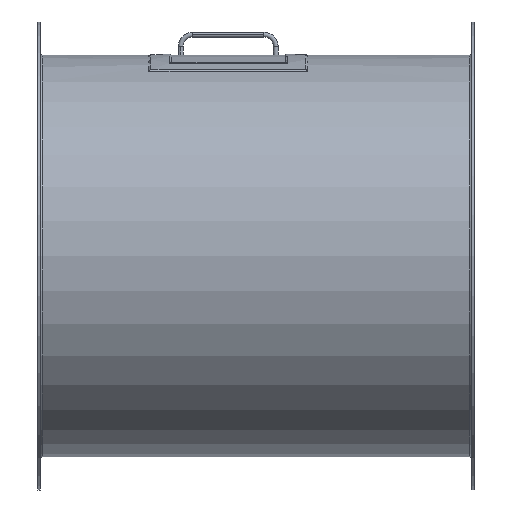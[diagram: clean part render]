
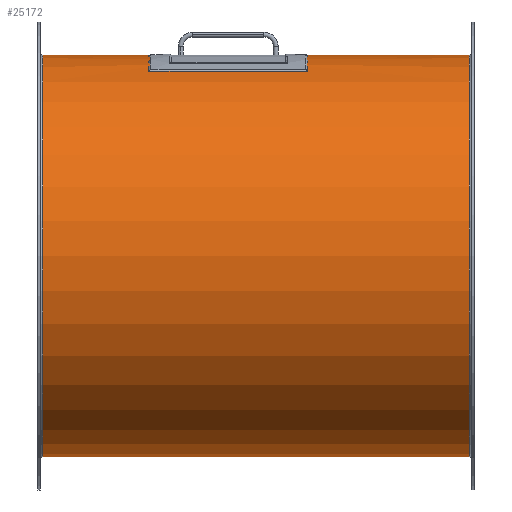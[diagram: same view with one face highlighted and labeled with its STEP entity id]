
A CAD part, top view. The second image highlights one B-rep face of the part: STEP entity #25172.
In plain terms, the highlighted cylindrical face has radius 253 mm (diameter 506 mm), a partial arc.
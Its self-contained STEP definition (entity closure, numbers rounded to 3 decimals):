
#153 = VERTEX_POINT ( 'NONE', #2321 ) ;
#187 = CARTESIAN_POINT ( 'NONE',  ( -269., 253., 0. ) ) ;
#242 = VERTEX_POINT ( 'NONE', #6693 ) ;
#354 = VERTEX_POINT ( 'NONE', #187 ) ;
#423 = CARTESIAN_POINT ( 'NONE',  ( 40., 0., 0. ) ) ;
#872 = DIRECTION ( 'NONE',  ( -1., 0., 0. ) ) ;
#2316 = AXIS2_PLACEMENT_3D ( 'NONE', #6832, #26182, #22495 ) ;
#2321 = CARTESIAN_POINT ( 'NONE',  ( 269., 253., 0. ) ) ;
#2639 = ORIENTED_EDGE ( 'NONE', *, *, #18881, .F. ) ;
#3276 = EDGE_CURVE ( 'NONE', #153, #9692, #33909, .T. ) ;
#3562 = CARTESIAN_POINT ( 'NONE',  ( 269., -253., 0. ) ) ;
#5864 = AXIS2_PLACEMENT_3D ( 'NONE', #8155, #11854, #31286 ) ;
#5964 = VECTOR ( 'NONE', #16022, 1000. ) ;
#6221 = AXIS2_PLACEMENT_3D ( 'NONE', #23039, #29427, #29136 ) ;
#6310 = DIRECTION ( 'NONE',  ( -1., 0., 0. ) ) ;
#6693 = CARTESIAN_POINT ( 'NONE',  ( 40., 241.628, 75. ) ) ;
#6832 = CARTESIAN_POINT ( 'NONE',  ( -110., 0., 0. ) ) ;
#7721 = ORIENTED_EDGE ( 'NONE', *, *, #17259, .F. ) ;
#8155 = CARTESIAN_POINT ( 'NONE',  ( -269., 0., 0. ) ) ;
#9224 = CARTESIAN_POINT ( 'NONE',  ( -110., 241.628, 75. ) ) ;
#9692 = VERTEX_POINT ( 'NONE', #12917 ) ;
#10935 = CARTESIAN_POINT ( 'NONE',  ( -110., 253., 0. ) ) ;
#11854 = DIRECTION ( 'NONE',  ( -1., 0., 0. ) ) ;
#11975 = ORIENTED_EDGE ( 'NONE', *, *, #15520, .T. ) ;
#12092 = LINE ( 'NONE', #25798, #34445 ) ;
#12917 = CARTESIAN_POINT ( 'NONE',  ( 40., 253., 0. ) ) ;
#13602 = DIRECTION ( 'NONE',  ( 0., -1., 0. ) ) ;
#13998 = CARTESIAN_POINT ( 'NONE',  ( -310.484, 241.628, 75. ) ) ;
#15289 = FACE_OUTER_BOUND ( 'NONE', #30732, .T. ) ;
#15499 = CIRCLE ( 'NONE', #6221, 253. ) ;
#15520 = EDGE_CURVE ( 'NONE', #39729, #354, #33543, .T. ) ;
#16022 = DIRECTION ( 'NONE',  ( -1., 0., 0. ) ) ;
#16308 = VECTOR ( 'NONE', #872, 1000. ) ;
#16897 = AXIS2_PLACEMENT_3D ( 'NONE', #423, #23145, #26687 ) ;
#17131 = DIRECTION ( 'NONE',  ( 1., 0., 0. ) ) ;
#17259 = EDGE_CURVE ( 'NONE', #38650, #354, #33446, .T. ) ;
#17432 = ORIENTED_EDGE ( 'NONE', *, *, #23007, .F. ) ;
#17510 = EDGE_CURVE ( 'NONE', #39729, #35917, #20243, .T. ) ;
#18585 = EDGE_CURVE ( 'NONE', #26074, #38650, #12092, .T. ) ;
#18881 = EDGE_CURVE ( 'NONE', #35917, #242, #25834, .T. ) ;
#19923 = CARTESIAN_POINT ( 'NONE',  ( -310.484, 253., 0. ) ) ;
#20243 = CIRCLE ( 'NONE', #2316, 253. ) ;
#20522 = CIRCLE ( 'NONE', #16897, 253. ) ;
#22495 = DIRECTION ( 'NONE',  ( 0., 0., -1. ) ) ;
#23007 = EDGE_CURVE ( 'NONE', #242, #9692, #20522, .T. ) ;
#23020 = ORIENTED_EDGE ( 'NONE', *, *, #18585, .F. ) ;
#23039 = CARTESIAN_POINT ( 'NONE',  ( 269., 0., 0. ) ) ;
#23145 = DIRECTION ( 'NONE',  ( -1., 0., 0. ) ) ;
#25172 = ADVANCED_FACE ( 'NONE', ( #15289 ), #34036, .T. ) ;
#25798 = CARTESIAN_POINT ( 'NONE',  ( -310.484, -253., 0. ) ) ;
#25834 = LINE ( 'NONE', #13998, #41510 ) ;
#26074 = VERTEX_POINT ( 'NONE', #3562 ) ;
#26182 = DIRECTION ( 'NONE',  ( 1., 0., 0. ) ) ;
#26666 = DIRECTION ( 'NONE',  ( -1., 0., 0. ) ) ;
#26687 = DIRECTION ( 'NONE',  ( 0., 0., 1. ) ) ;
#29136 = DIRECTION ( 'NONE',  ( 0., -1., 0. ) ) ;
#29427 = DIRECTION ( 'NONE',  ( -1., 0., 0. ) ) ;
#29900 = ORIENTED_EDGE ( 'NONE', *, *, #17510, .F. ) ;
#30732 = EDGE_LOOP ( 'NONE', ( #36904, #30979, #17432, #2639, #29900, #11975, #7721, #23020 ) ) ;
#30979 = ORIENTED_EDGE ( 'NONE', *, *, #3276, .T. ) ;
#31286 = DIRECTION ( 'NONE',  ( 0., -1., 0. ) ) ;
#31597 = AXIS2_PLACEMENT_3D ( 'NONE', #33454, #26666, #13602 ) ;
#33233 = CARTESIAN_POINT ( 'NONE',  ( -310.484, 253., 0. ) ) ;
#33446 = CIRCLE ( 'NONE', #5864, 253. ) ;
#33454 = CARTESIAN_POINT ( 'NONE',  ( -310.484, 0., 0. ) ) ;
#33543 = LINE ( 'NONE', #33233, #16308 ) ;
#33909 = LINE ( 'NONE', #19923, #5964 ) ;
#34036 = CYLINDRICAL_SURFACE ( 'NONE', #31597, 253. ) ;
#34445 = VECTOR ( 'NONE', #6310, 1000. ) ;
#35917 = VERTEX_POINT ( 'NONE', #9224 ) ;
#36904 = ORIENTED_EDGE ( 'NONE', *, *, #37045, .T. ) ;
#37045 = EDGE_CURVE ( 'NONE', #26074, #153, #15499, .T. ) ;
#38650 = VERTEX_POINT ( 'NONE', #40681 ) ;
#39729 = VERTEX_POINT ( 'NONE', #10935 ) ;
#40681 = CARTESIAN_POINT ( 'NONE',  ( -269., -253., 0. ) ) ;
#41510 = VECTOR ( 'NONE', #17131, 1000. ) ;
